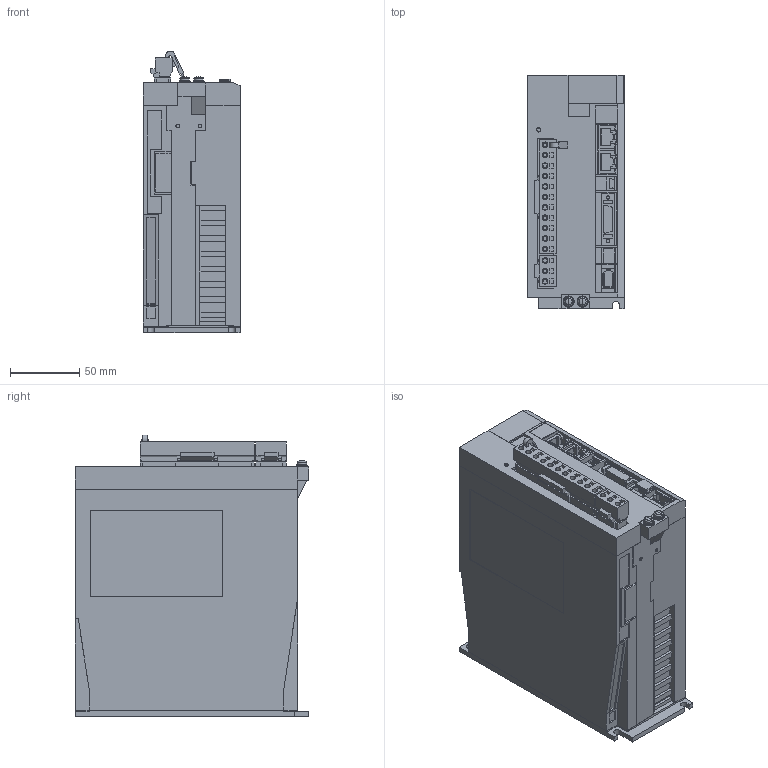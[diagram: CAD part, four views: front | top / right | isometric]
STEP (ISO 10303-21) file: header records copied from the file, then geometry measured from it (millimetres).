
FILE_DESCRIPTION((''),'2;1');
FILE_NAME('SGDXS-5R5A40A_ASM_ASM','2022-02-25T',('qiaochen_shen'),('Yaskawa Electric (Shenyang) Co.,Ltd'),'PRO/ENGINEER BY PARAMETRIC TECHNOLOGY CORPORATION, 2017170','PRO/ENGINEER BY PARAMETRIC TECHNOLOGY CORPORATION, 2017170','');
FILE_SCHEMA(('AUTOMOTIVE_DESIGN { 1 0 10303 214 1 1 1 1 }'));
Products named in the file (11): SGDXS-5R5A40A_BASE_1_3; SGDXS_5R5A40A_CONNECTOR_2_2_1_2; SGDXS_5R5A40A_CONNECTOR_1_5_1_2; SGDXS_5R5A40A_PIN_1_2_1_2; SGDXS_5R5A40A_CONNECTOR_3_1_1_2; SGDXS_5R5A40A_COVER2_AF0_2_1_2; SGDXS_5R5A40A_COVER3_1_1_2; SGDXS_5R5A40A_COVER_2_1_2; SGDXS-5R5A40A_ASM_ASM_2_ASM_11_ASM; SGDXS-5R5A40A_ASM_ASM_ASM_2_ASM; SGDXS-5R5A40A_ASM_ASM
Assembly tree (10 placements, depth 4):
  SGDXS-5R5A40A_ASM_ASM
    SGDXS-5R5A40A_ASM_ASM_ASM_2_ASM
      SGDXS-5R5A40A_ASM_ASM_2_ASM_11_ASM
        SGDXS-5R5A40A_BASE_1_3
        SGDXS_5R5A40A_CONNECTOR_2_2_1_2
        SGDXS_5R5A40A_CONNECTOR_1_5_1_2
        SGDXS_5R5A40A_PIN_1_2_1_2
        SGDXS_5R5A40A_CONNECTOR_3_1_1_2
        SGDXS_5R5A40A_COVER2_AF0_2_1_2
        SGDXS_5R5A40A_COVER3_1_1_2
        SGDXS_5R5A40A_COVER_2_1_2
Bounding box: 70.5 x 168 x 202.93 mm (x, y, z)
Volume: 1984798.9 mm3; surface area: 168992.8 mm2
Topology: 8 solids, 8 shells, 1832 faces, 4908 edges, 3236 vertices
Faces by surface type: plane 1696, cylinder 122, cone 6, torus 4, sphere 4
Entity records: 71324 total; most frequent: CARTESIAN_POINT 10045, ORIENTED_EDGE 9808, DIRECTION 8905, EDGE_CURVE 4904, VECTOR 4615, LINE 4615, VERTEX_POINT 3236, AXIS2_PLACEMENT_3D 2145
